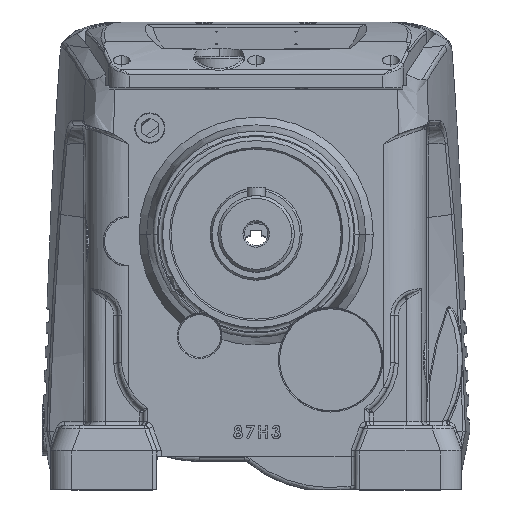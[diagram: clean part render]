
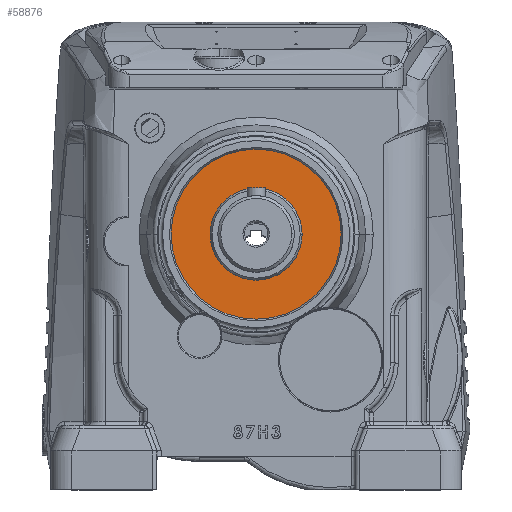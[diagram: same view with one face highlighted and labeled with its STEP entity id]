
A CAD part, top view. The second image highlights one B-rep face of the part: STEP entity #58876.
In plain terms, the highlighted planar face has unit normal (0, 0, 1).
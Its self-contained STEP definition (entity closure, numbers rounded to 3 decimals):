
#1889 = CIRCLE ( 'NONE', #1911, 60. ) ;
#1911 = AXIS2_PLACEMENT_3D ( 'NONE', #5081, #5082, #5083 ) ;
#1915 = CIRCLE ( 'NONE', #1937, 60. ) ;
#1918 = CIRCLE ( 'NONE', #1925, 32.5 ) ;
#1925 = AXIS2_PLACEMENT_3D ( 'NONE', #5086, #5087, #5088 ) ;
#1927 = CIRCLE ( 'NONE', #1930, 32.5 ) ;
#1930 = AXIS2_PLACEMENT_3D ( 'NONE', #5089, #5090, #5091 ) ;
#1937 = AXIS2_PLACEMENT_3D ( 'NONE', #5092, #5093, #5094 ) ;
#4578 = CARTESIAN_POINT ( 'NONE',  ( -32.5, 160., 48.5 ) ) ;
#4579 = CARTESIAN_POINT ( 'NONE',  ( 32.5, 160., 48.5 ) ) ;
#4580 = CARTESIAN_POINT ( 'NONE',  ( 60., 160., 48.5 ) ) ;
#4581 = CARTESIAN_POINT ( 'NONE',  ( -60., 160., 48.5 ) ) ;
#5081 = CARTESIAN_POINT ( 'NONE',  ( 0., 160., 48.5 ) ) ;
#5082 = DIRECTION ( 'NONE',  ( 0., 0., 1. ) ) ;
#5083 = DIRECTION ( 'NONE',  ( 1., 0., 0. ) ) ;
#5086 = CARTESIAN_POINT ( 'NONE',  ( 0., 160., 48.5 ) ) ;
#5087 = DIRECTION ( 'NONE',  ( 0., 0., 1. ) ) ;
#5088 = DIRECTION ( 'NONE',  ( 1., 0., 0. ) ) ;
#5089 = CARTESIAN_POINT ( 'NONE',  ( 0., 160., 48.5 ) ) ;
#5090 = DIRECTION ( 'NONE',  ( 0., 0., 1. ) ) ;
#5091 = DIRECTION ( 'NONE',  ( 1., 0., 0. ) ) ;
#5092 = CARTESIAN_POINT ( 'NONE',  ( 0., 160., 48.5 ) ) ;
#5093 = DIRECTION ( 'NONE',  ( 0., 0., 1. ) ) ;
#5094 = DIRECTION ( 'NONE',  ( 1., 0., 0. ) ) ;
#31082 = FACE_BOUND ( 'NONE', #61801, .T. ) ;
#31083 = FACE_OUTER_BOUND ( 'NONE', #61802, .T. ) ;
#31418 = AXIS2_PLACEMENT_3D ( 'NONE', #35298, #35299, #35300 ) ;
#35297 = PLANE ( 'NONE',  #31418 ) ;
#35298 = CARTESIAN_POINT ( 'NONE',  ( 0., 220., 48.5 ) ) ;
#35299 = DIRECTION ( 'NONE',  ( 0., 0., -1. ) ) ;
#35300 = DIRECTION ( 'NONE',  ( -1., 0., 0. ) ) ;
#42199 = VERTEX_POINT ( 'NONE', #4578 ) ;
#42200 = VERTEX_POINT ( 'NONE', #4579 ) ;
#42201 = VERTEX_POINT ( 'NONE', #4580 ) ;
#42202 = VERTEX_POINT ( 'NONE', #4581 ) ;
#45653 = EDGE_CURVE ( 'NONE', #42201, #42202, #1889, .T. ) ;
#45655 = EDGE_CURVE ( 'NONE', #42199, #42200, #1918, .T. ) ;
#45656 = EDGE_CURVE ( 'NONE', #42200, #42199, #1927, .T. ) ;
#45657 = EDGE_CURVE ( 'NONE', #42202, #42201, #1915, .T. ) ;
#46438 = ORIENTED_EDGE ( 'NONE', *, *, #45656, .F. ) ;
#46440 = ORIENTED_EDGE ( 'NONE', *, *, #45655, .F. ) ;
#46441 = ORIENTED_EDGE ( 'NONE', *, *, #45657, .T. ) ;
#46442 = ORIENTED_EDGE ( 'NONE', *, *, #45653, .T. ) ;
#58876 = ADVANCED_FACE ( 'NONE', ( #31082, #31083 ), #35297, .F. ) ;
#61801 = EDGE_LOOP ( 'NONE', ( #46438, #46440 ) ) ;
#61802 = EDGE_LOOP ( 'NONE', ( #46442, #46441 ) ) ;
